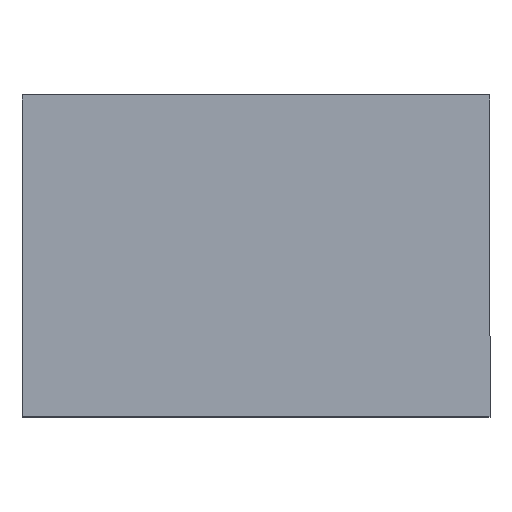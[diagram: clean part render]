
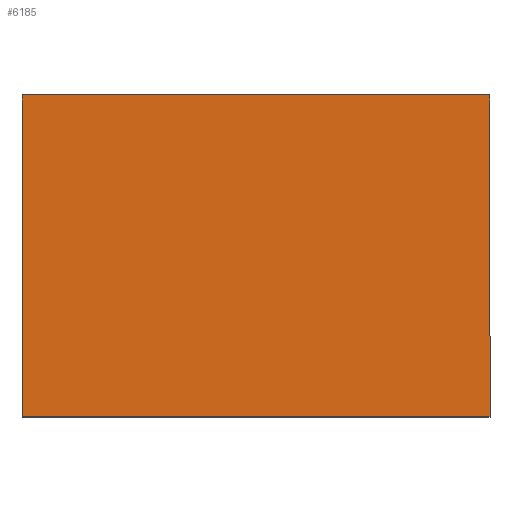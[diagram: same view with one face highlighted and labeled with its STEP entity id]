
A CAD part, top view. The second image highlights one B-rep face of the part: STEP entity #6185.
In plain terms, the highlighted planar face has unit normal (0, 0, 1).
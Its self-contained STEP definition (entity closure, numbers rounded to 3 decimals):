
#94 = VECTOR ( 'NONE', #6010, 1000. ) ;
#196 = LINE ( 'NONE', #7914, #5753 ) ;
#600 = VECTOR ( 'NONE', #1192, 1000. ) ;
#822 = EDGE_CURVE ( 'NONE', #8200, #6336, #5561, .T. ) ;
#1014 = ORIENTED_EDGE ( 'NONE', *, *, #1171, .F. ) ;
#1171 = EDGE_CURVE ( 'NONE', #6086, #4697, #7621, .T. ) ;
#1192 = DIRECTION ( 'NONE',  ( 1., 0., 0. ) ) ;
#1797 = DIRECTION ( 'NONE',  ( 0., 0., -1. ) ) ;
#2021 = DIRECTION ( 'NONE',  ( 0., -1., 0. ) ) ;
#2348 = CARTESIAN_POINT ( 'NONE',  ( -280., 192.5, 10. ) ) ;
#2677 = DIRECTION ( 'NONE',  ( 0., -1., 0. ) ) ;
#3160 = ORIENTED_EDGE ( 'NONE', *, *, #4913, .F. ) ;
#3236 = CARTESIAN_POINT ( 'NONE',  ( 280., 192.5, 10. ) ) ;
#3293 = EDGE_LOOP ( 'NONE', ( #1014, #5884, #7486, #3160 ) ) ;
#3537 = FACE_OUTER_BOUND ( 'NONE', #3293, .T. ) ;
#3587 = AXIS2_PLACEMENT_3D ( 'NONE', #4558, #1797, #4753 ) ;
#3752 = PLANE ( 'NONE',  #3587 ) ;
#4008 = LINE ( 'NONE', #4634, #8186 ) ;
#4558 = CARTESIAN_POINT ( 'NONE',  ( 0., 0., 10. ) ) ;
#4634 = CARTESIAN_POINT ( 'NONE',  ( 280., 192.5, 10. ) ) ;
#4697 = VERTEX_POINT ( 'NONE', #3236 ) ;
#4753 = DIRECTION ( 'NONE',  ( -1., 0., 0. ) ) ;
#4839 = CARTESIAN_POINT ( 'NONE',  ( 280., -192.5, 10. ) ) ;
#4913 = EDGE_CURVE ( 'NONE', #4697, #6336, #4008, .T. ) ;
#5561 = LINE ( 'NONE', #5722, #94 ) ;
#5722 = CARTESIAN_POINT ( 'NONE',  ( -280., -192.5, 10. ) ) ;
#5753 = VECTOR ( 'NONE', #2021, 1000. ) ;
#5884 = ORIENTED_EDGE ( 'NONE', *, *, #7272, .T. ) ;
#6010 = DIRECTION ( 'NONE',  ( 1., 0., 0. ) ) ;
#6086 = VERTEX_POINT ( 'NONE', #6444 ) ;
#6185 = ADVANCED_FACE ( 'NONE', ( #3537 ), #3752, .F. ) ;
#6336 = VERTEX_POINT ( 'NONE', #4839 ) ;
#6444 = CARTESIAN_POINT ( 'NONE',  ( -280., 192.5, 10. ) ) ;
#6921 = CARTESIAN_POINT ( 'NONE',  ( -280., -192.5, 10. ) ) ;
#7272 = EDGE_CURVE ( 'NONE', #6086, #8200, #196, .T. ) ;
#7486 = ORIENTED_EDGE ( 'NONE', *, *, #822, .T. ) ;
#7621 = LINE ( 'NONE', #2348, #600 ) ;
#7914 = CARTESIAN_POINT ( 'NONE',  ( -280., 192.5, 10. ) ) ;
#8186 = VECTOR ( 'NONE', #2677, 1000. ) ;
#8200 = VERTEX_POINT ( 'NONE', #6921 ) ;
